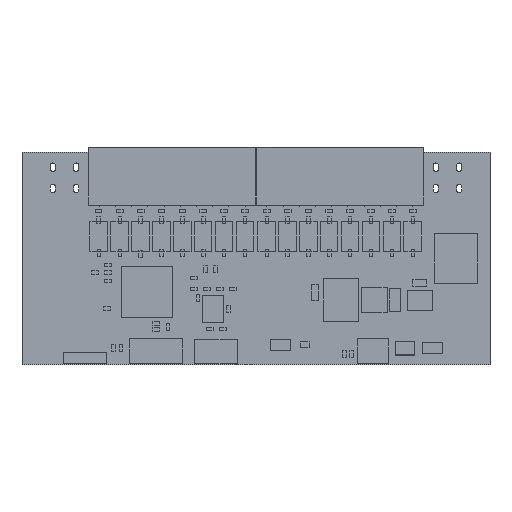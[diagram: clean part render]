
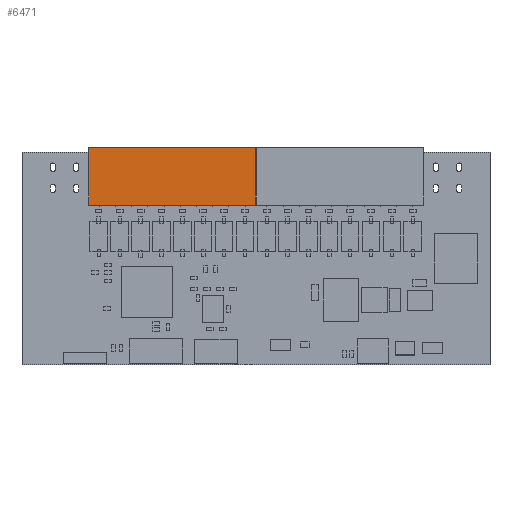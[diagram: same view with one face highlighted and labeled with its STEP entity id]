
A CAD part, top view. The second image highlights one B-rep face of the part: STEP entity #6471.
In plain terms, the highlighted free-form (B-spline) face has degree [1, 1] with [2, 2] control points.
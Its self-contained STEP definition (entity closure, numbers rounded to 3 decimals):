
#6354 = VERTEX_POINT('',#6355);
#6355 = CARTESIAN_POINT('',(-19.645,-11.2,0.762));
#6368 = VERTEX_POINT('',#6369);
#6369 = CARTESIAN_POINT('',(-19.645,2.4,0.762));
#6374 = EDGE_CURVE('',#6354,#6368,#6375,.T.);
#6375 = B_SPLINE_CURVE_WITH_KNOTS('',1,(#6376,#6377),.UNSPECIFIED.,.F.,  .F.,(2,2),(0.,0.762),.PIECEWISE_BEZIER_KNOTS.);
#6376 = CARTESIAN_POINT('',(-19.645,-11.2,0.762));
#6377 = CARTESIAN_POINT('',(-19.645,2.4,0.762));
#6390 = VERTEX_POINT('',#6391);
#6391 = CARTESIAN_POINT('',(19.645,-11.2,0.762));
#6404 = VERTEX_POINT('',#6405);
#6405 = CARTESIAN_POINT('',(19.645,2.4,0.762));
#6410 = EDGE_CURVE('',#6390,#6404,#6411,.T.);
#6411 = B_SPLINE_CURVE_WITH_KNOTS('',1,(#6412,#6413),.UNSPECIFIED.,.F.,  .F.,(2,2),(0.,0.762),.PIECEWISE_BEZIER_KNOTS.);
#6412 = CARTESIAN_POINT('',(19.645,-11.2,0.762));
#6413 = CARTESIAN_POINT('',(19.645,2.4,0.762));
#6429 = EDGE_CURVE('',#6354,#6390,#6430,.T.);
#6430 = B_SPLINE_CURVE_WITH_KNOTS('',1,(#6431,#6432),.UNSPECIFIED.,.F.,  .F.,(2,2),(0.,0.762),.PIECEWISE_BEZIER_KNOTS.);
#6431 = CARTESIAN_POINT('',(-19.645,-11.2,0.762));
#6432 = CARTESIAN_POINT('',(19.645,-11.2,0.762));
#6449 = EDGE_CURVE('',#6368,#6404,#6450,.T.);
#6450 = B_SPLINE_CURVE_WITH_KNOTS('',1,(#6451,#6452),.UNSPECIFIED.,.F.,  .F.,(2,2),(0.,0.762),.PIECEWISE_BEZIER_KNOTS.);
#6451 = CARTESIAN_POINT('',(-19.645,2.4,0.762));
#6452 = CARTESIAN_POINT('',(19.645,2.4,0.762));
#6471 = ADVANCED_FACE('',(#6472),#6478,.T.);
#6472 = FACE_BOUND('',#6473,.T.);
#6473 = EDGE_LOOP('',(#6474,#6475,#6476,#6477));
#6474 = ORIENTED_EDGE('',*,*,#6374,.F.);
#6475 = ORIENTED_EDGE('',*,*,#6429,.T.);
#6476 = ORIENTED_EDGE('',*,*,#6410,.T.);
#6477 = ORIENTED_EDGE('',*,*,#6449,.F.);
#6478 = B_SPLINE_SURFACE_WITH_KNOTS('',1,1,(    (#6479,#6480)    ,(#6481,#6482    )),.UNSPECIFIED.,.F.,.F.,.F.,(2,2),(2,2),(0.,0.762),(0.,    0.762),.PIECEWISE_BEZIER_KNOTS.);
#6479 = CARTESIAN_POINT('',(-19.645,-11.2,0.762));
#6480 = CARTESIAN_POINT('',(-19.645,2.4,0.762));
#6481 = CARTESIAN_POINT('',(19.645,-11.2,0.762));
#6482 = CARTESIAN_POINT('',(19.645,2.4,0.762));
